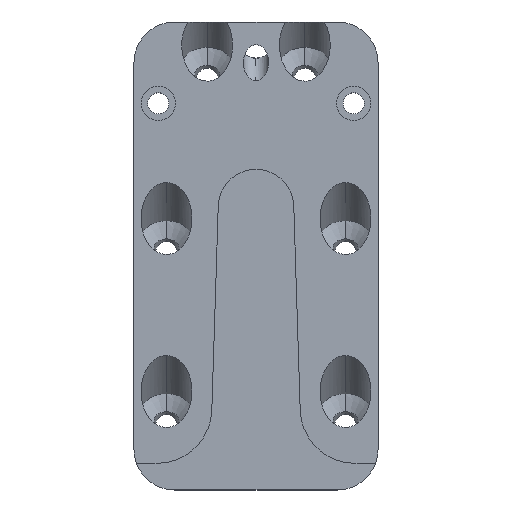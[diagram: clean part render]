
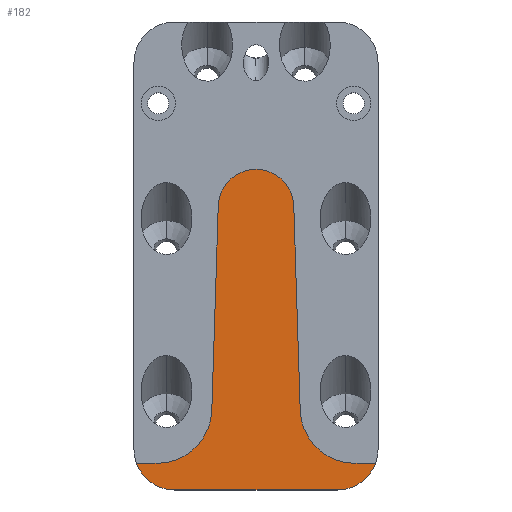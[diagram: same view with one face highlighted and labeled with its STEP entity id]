
A CAD part, top view. The second image highlights one B-rep face of the part: STEP entity #182.
In plain terms, the highlighted planar face has unit normal (0, 0, 1).
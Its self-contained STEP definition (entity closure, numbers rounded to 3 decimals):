
#1 = VECTOR ( 'NONE', #1658, 1000. ) ;
#10 = CIRCLE ( 'NONE', #1925, 10. ) ;
#18 = VERTEX_POINT ( 'NONE', #650 ) ;
#33 = VERTEX_POINT ( 'NONE', #2079 ) ;
#41 = DIRECTION ( 'NONE',  ( 0., 0., 1. ) ) ;
#63 = CARTESIAN_POINT ( 'NONE',  ( 24.323, 35., 4. ) ) ;
#80 = DIRECTION ( 'NONE',  ( 1., 0., 0. ) ) ;
#121 = ORIENTED_EDGE ( 'NONE', *, *, #563, .F. ) ;
#125 = ORIENTED_EDGE ( 'NONE', *, *, #2011, .T. ) ;
#176 = DIRECTION ( 'NONE',  ( 0., 0., -1. ) ) ;
#179 = VERTEX_POINT ( 'NONE', #1064 ) ;
#180 = EDGE_LOOP ( 'NONE', ( #2186, #1442, #503, #232, #2141, #1398, #121, #858, #125, #1181 ) ) ;
#182 = ADVANCED_FACE ( 'NONE', ( #406 ), #1421, .F. ) ;
#183 = VERTEX_POINT ( 'NONE', #882 ) ;
#206 = VERTEX_POINT ( 'NONE', #899 ) ;
#232 = ORIENTED_EDGE ( 'NONE', *, *, #605, .F. ) ;
#297 = VERTEX_POINT ( 'NONE', #63 ) ;
#303 = CARTESIAN_POINT ( 'NONE',  ( 12.74, 94.906, 4. ) ) ;
#376 = AXIS2_PLACEMENT_3D ( 'NONE', #1532, #843, #1877 ) ;
#382 = DIRECTION ( 'NONE',  ( -1., 0., 0. ) ) ;
#405 = AXIS2_PLACEMENT_3D ( 'NONE', #615, #431, #1481 ) ;
#406 = FACE_OUTER_BOUND ( 'NONE', #180, .T. ) ;
#408 = LINE ( 'NONE', #1978, #1287 ) ;
#409 = EDGE_CURVE ( 'NONE', #179, #480, #854, .T. ) ;
#431 = DIRECTION ( 'NONE',  ( 0., 0., 1. ) ) ;
#432 = VECTOR ( 'NONE', #80, 1000. ) ;
#446 = DIRECTION ( 'NONE',  ( 1., 0., 0. ) ) ;
#480 = VERTEX_POINT ( 'NONE', #740 ) ;
#503 = ORIENTED_EDGE ( 'NONE', *, *, #1584, .F. ) ;
#563 = EDGE_CURVE ( 'NONE', #206, #18, #2164, .T. ) ;
#585 = CARTESIAN_POINT ( 'NONE',  ( 24.323, 35., 4. ) ) ;
#605 = EDGE_CURVE ( 'NONE', #480, #297, #883, .T. ) ;
#609 = CARTESIAN_POINT ( 'NONE',  ( -20., 25., 4. ) ) ;
#615 = CARTESIAN_POINT ( 'NONE',  ( 20., 35., 4. ) ) ;
#650 = CARTESIAN_POINT ( 'NONE',  ( -12.74, 94.906, 4. ) ) ;
#700 = DIRECTION ( 'NONE',  ( -1., 0., 0. ) ) ;
#715 = DIRECTION ( 'NONE',  ( 0., 0., -1. ) ) ;
#740 = CARTESIAN_POINT ( 'NONE',  ( 14.328, 44.684, 4. ) ) ;
#747 = DIRECTION ( 'NONE',  ( -1., 0., 0. ) ) ;
#797 = CIRCLE ( 'NONE', #376, 10. ) ;
#804 = DIRECTION ( 'NONE',  ( 0., 0., 1. ) ) ;
#819 = DIRECTION ( 'NONE',  ( 0.032, -1., 0. ) ) ;
#843 = DIRECTION ( 'NONE',  ( 0., 0., 1. ) ) ;
#854 = LINE ( 'NONE', #303, #2252 ) ;
#858 = ORIENTED_EDGE ( 'NONE', *, *, #1831, .F. ) ;
#876 = EDGE_CURVE ( 'NONE', #18, #179, #1870, .T. ) ;
#882 = CARTESIAN_POINT ( 'NONE',  ( -24.323, 35., 4. ) ) ;
#883 = CIRCLE ( 'NONE', #1899, 10. ) ;
#899 = CARTESIAN_POINT ( 'NONE',  ( -14.328, 44.684, 4. ) ) ;
#954 = EDGE_CURVE ( 'NONE', #33, #1110, #1730, .T. ) ;
#996 = EDGE_CURVE ( 'NONE', #1874, #1110, #10, .T. ) ;
#1064 = CARTESIAN_POINT ( 'NONE',  ( 12.74, 94.906, 4. ) ) ;
#1100 = EDGE_CURVE ( 'NONE', #33, #1193, #2034, .T. ) ;
#1110 = VERTEX_POINT ( 'NONE', #609 ) ;
#1149 = LINE ( 'NONE', #585, #432 ) ;
#1181 = ORIENTED_EDGE ( 'NONE', *, *, #996, .T. ) ;
#1193 = VERTEX_POINT ( 'NONE', #1683 ) ;
#1194 = AXIS2_PLACEMENT_3D ( 'NONE', #2109, #715, #700 ) ;
#1207 = VECTOR ( 'NONE', #1459, 1000. ) ;
#1287 = VECTOR ( 'NONE', #747, 1000. ) ;
#1361 = CARTESIAN_POINT ( 'NONE',  ( -30., 35., 4. ) ) ;
#1398 = ORIENTED_EDGE ( 'NONE', *, *, #876, .F. ) ;
#1421 = PLANE ( 'NONE',  #1194 ) ;
#1427 = CARTESIAN_POINT ( 'NONE',  ( -30., 25., 4. ) ) ;
#1442 = ORIENTED_EDGE ( 'NONE', *, *, #1100, .T. ) ;
#1459 = DIRECTION ( 'NONE',  ( -1., 0., 0. ) ) ;
#1481 = DIRECTION ( 'NONE',  ( -1., 0., 0. ) ) ;
#1500 = CARTESIAN_POINT ( 'NONE',  ( 24.323, 45., 4. ) ) ;
#1532 = CARTESIAN_POINT ( 'NONE',  ( -24.323, 45., 4. ) ) ;
#1563 = DIRECTION ( 'NONE',  ( -1., 0., 0. ) ) ;
#1584 = EDGE_CURVE ( 'NONE', #297, #1193, #1149, .T. ) ;
#1658 = DIRECTION ( 'NONE',  ( 0.032, 1., 0. ) ) ;
#1683 = CARTESIAN_POINT ( 'NONE',  ( 30., 35., 4. ) ) ;
#1730 = LINE ( 'NONE', #1427, #1207 ) ;
#1831 = EDGE_CURVE ( 'NONE', #183, #206, #797, .T. ) ;
#1870 = CIRCLE ( 'NONE', #2093, 12.747 ) ;
#1874 = VERTEX_POINT ( 'NONE', #1361 ) ;
#1877 = DIRECTION ( 'NONE',  ( 1., 0., 0. ) ) ;
#1899 = AXIS2_PLACEMENT_3D ( 'NONE', #1500, #804, #446 ) ;
#1925 = AXIS2_PLACEMENT_3D ( 'NONE', #1986, #41, #382 ) ;
#1978 = CARTESIAN_POINT ( 'NONE',  ( -24.323, 35., 4. ) ) ;
#1986 = CARTESIAN_POINT ( 'NONE',  ( -20., 35., 4. ) ) ;
#2011 = EDGE_CURVE ( 'NONE', #183, #1874, #408, .T. ) ;
#2034 = CIRCLE ( 'NONE', #405, 10. ) ;
#2051 = CARTESIAN_POINT ( 'NONE',  ( -14.328, 44.684, 4. ) ) ;
#2079 = CARTESIAN_POINT ( 'NONE',  ( 20., 25., 4. ) ) ;
#2093 = AXIS2_PLACEMENT_3D ( 'NONE', #2282, #176, #1563 ) ;
#2109 = CARTESIAN_POINT ( 'NONE',  ( -24.323, 23., 4. ) ) ;
#2141 = ORIENTED_EDGE ( 'NONE', *, *, #409, .F. ) ;
#2164 = LINE ( 'NONE', #2051, #1 ) ;
#2186 = ORIENTED_EDGE ( 'NONE', *, *, #954, .F. ) ;
#2252 = VECTOR ( 'NONE', #819, 1000. ) ;
#2282 = CARTESIAN_POINT ( 'NONE',  ( 0., 94.503, 4. ) ) ;
